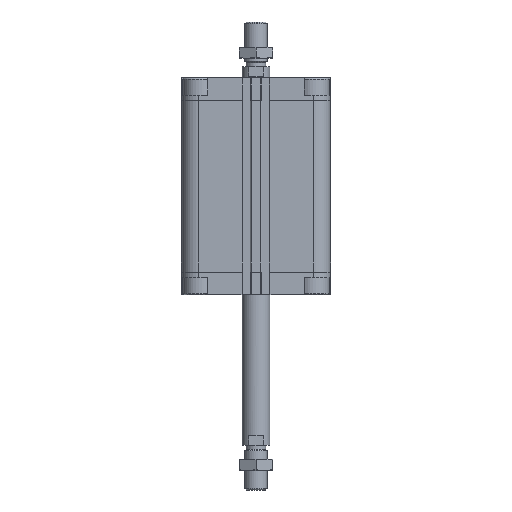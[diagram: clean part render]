
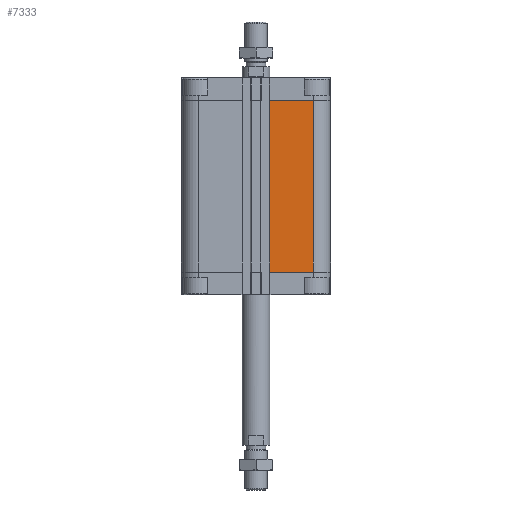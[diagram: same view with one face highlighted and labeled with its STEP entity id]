
A CAD part, front view. The second image highlights one B-rep face of the part: STEP entity #7333.
In plain terms, the highlighted planar face has unit normal (0, -1, 0).
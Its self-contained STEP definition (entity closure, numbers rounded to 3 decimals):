
#190 = ORIENTED_EDGE ( 'NONE', *, *, #22913, .F. ) ;
#1261 = EDGE_CURVE ( 'NONE', #21733, #9408, #5146, .T. ) ;
#1488 = DIRECTION ( 'NONE',  ( 0., 0., 1. ) ) ;
#2176 = PLANE ( 'NONE',  #7994 ) ;
#3674 = LINE ( 'NONE', #10311, #21886 ) ;
#4625 = ORIENTED_EDGE ( 'NONE', *, *, #13993, .F. ) ;
#4875 = CARTESIAN_POINT ( 'NONE',  ( 9.95, -53.5, -16.5 ) ) ;
#5146 = LINE ( 'NONE', #21291, #14700 ) ;
#5377 = DIRECTION ( 'NONE',  ( 0., 0., 1. ) ) ;
#5422 = DIRECTION ( 'NONE',  ( 0., -1., 0. ) ) ;
#6740 = CARTESIAN_POINT ( 'NONE',  ( 9.95, -53.5, -139.5 ) ) ;
#6869 = VERTEX_POINT ( 'NONE', #6740 ) ;
#7121 = CARTESIAN_POINT ( 'NONE',  ( 9.95, -53.5, -16.5 ) ) ;
#7333 = ADVANCED_FACE ( 'NONE', ( #18079 ), #2176, .T. ) ;
#7994 = AXIS2_PLACEMENT_3D ( 'NONE', #21441, #5422, #17740 ) ;
#9377 = CARTESIAN_POINT ( 'NONE',  ( 41., -53.5, -16.5 ) ) ;
#9408 = VERTEX_POINT ( 'NONE', #9377 ) ;
#10307 = EDGE_CURVE ( 'NONE', #6869, #21733, #16398, .T. ) ;
#10311 = CARTESIAN_POINT ( 'NONE',  ( 9.95, -53.5, -139.5 ) ) ;
#10420 = EDGE_LOOP ( 'NONE', ( #190, #4625, #18276, #16587 ) ) ;
#10877 = VECTOR ( 'NONE', #11971, 1000. ) ;
#11971 = DIRECTION ( 'NONE',  ( 1., 0., 0. ) ) ;
#12015 = VERTEX_POINT ( 'NONE', #7121 ) ;
#12059 = CARTESIAN_POINT ( 'NONE',  ( 41., -53.5, -139.5 ) ) ;
#13034 = CARTESIAN_POINT ( 'NONE',  ( 9.95, -53.5, -139.5 ) ) ;
#13257 = DIRECTION ( 'NONE',  ( 1., 0., 0. ) ) ;
#13947 = LINE ( 'NONE', #4875, #10877 ) ;
#13993 = EDGE_CURVE ( 'NONE', #6869, #12015, #3674, .T. ) ;
#14700 = VECTOR ( 'NONE', #5377, 1000. ) ;
#16398 = LINE ( 'NONE', #13034, #18386 ) ;
#16587 = ORIENTED_EDGE ( 'NONE', *, *, #1261, .T. ) ;
#17740 = DIRECTION ( 'NONE',  ( -1., 0., 0. ) ) ;
#18079 = FACE_OUTER_BOUND ( 'NONE', #10420, .T. ) ;
#18276 = ORIENTED_EDGE ( 'NONE', *, *, #10307, .T. ) ;
#18386 = VECTOR ( 'NONE', #13257, 1000. ) ;
#21291 = CARTESIAN_POINT ( 'NONE',  ( 41., -53.5, -139.5 ) ) ;
#21441 = CARTESIAN_POINT ( 'NONE',  ( 9.95, -53.5, -139.5 ) ) ;
#21733 = VERTEX_POINT ( 'NONE', #12059 ) ;
#21886 = VECTOR ( 'NONE', #1488, 1000. ) ;
#22913 = EDGE_CURVE ( 'NONE', #12015, #9408, #13947, .T. ) ;
